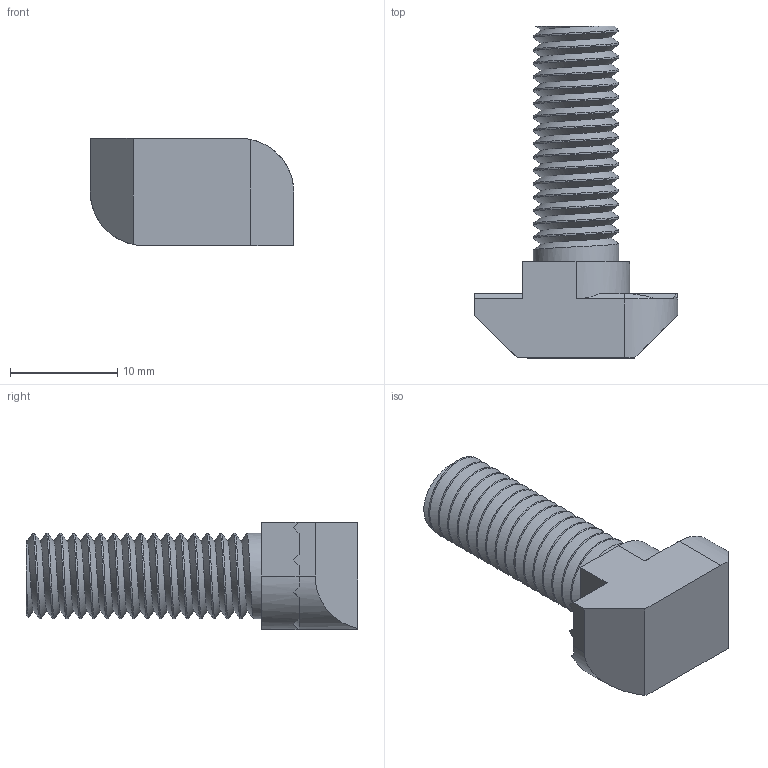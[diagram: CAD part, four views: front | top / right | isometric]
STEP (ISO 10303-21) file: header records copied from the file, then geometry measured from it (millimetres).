
FILE_DESCRIPTION(/* description */ ('Inserto a martello cava 10 filleto maschio M8x25'),/* implementation_level */ '2;1');
FILE_NAME(/* name */ 'C:\omnitec\Desktop\Inserti\N41-10-25.stp',/* time_stamp */ '2021-02-19T08:08:23+01:00',/* author */ ('omnitec'),/* organization */ ('Microsoft'),/* preprocessor_version */ 'ST-DEVELOPER v18.1',/* originating_system */ 'Autodesk Inventor 2021',/* authorisation */ '');
FILE_SCHEMA (('AUTOMOTIVE_DESIGN { 1 0 10303 214 3 1 1 }'));
Length unit declared in the file: millimetre
Products named in the file (1): N41-10-25
Bounding box: 19 x 31 x 10 mm (x, y, z)
Volume: 2115.1 mm3; surface area: 1534.7 mm2
Topology: 1 solids, 1 shells, 66 faces, 181 edges, 119 vertices
Faces by surface type: plane 40, cylinder 21, cone 3, bspline 2
Full cylindrical faces by diameter (mm): 8 x16
Entity records: 4303 total; most frequent: CARTESIAN_POINT 2646, ORIENTED_EDGE 362, DIRECTION 302, EDGE_CURVE 181, VERTEX_POINT 119, LINE 106, VECTOR 106, AXIS2_PLACEMENT_3D 98
